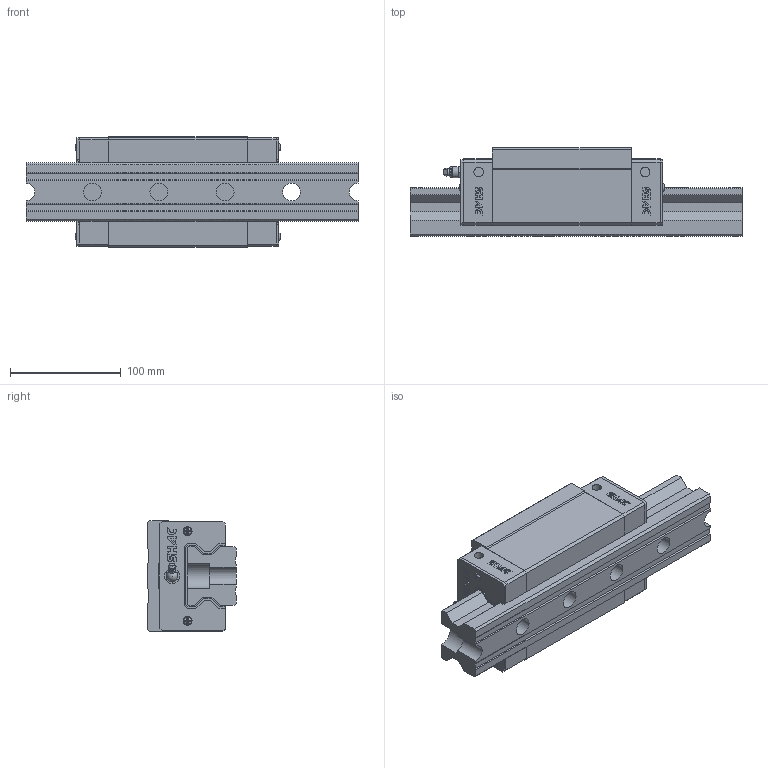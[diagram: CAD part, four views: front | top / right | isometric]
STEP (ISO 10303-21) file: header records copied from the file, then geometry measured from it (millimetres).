
FILE_DESCRIPTION( ( 'STEP AP214' ), '1' );
FILE_NAME( 'F:/品牌/SHAC 台湾鼎翰传动科技有限公司/3D滑块/GRH55CA1R300Z0CRC-0_0_1_1__.stp', '2025-04-21T22:53:22', ( 'License CC BY-ND 4.0' ), ( 'CADENAS' ), ' ', 'PARTsolutions', ' ' );
FILE_SCHEMA( ( 'AUTOMOTIVE_DESIGN { 1 0 10303 214 1 1 1 1 }' ) );
Length unit declared in the file: millimetre
Products named in the file (8): GRH55CA1R300Z0CRC-0/0(1_1_); _GR55R300-0/0(1)_RAIL; _GRH55CA_slider; _GRH55_C; _GRH55_P; _GH55_BOLT; _GR55_SCREW; _GH55-_G
Assembly tree (12 placements, depth 2):
  GRH55CA1R300Z0CRC-0/0(1_1_)
    _GR55R300-0/0(1)_RAIL
    _GRH55CA_slider
    _GRH55_C  x2
    _GRH55_P  x2
    _GH55_BOLT
    _GR55_SCREW  x4
    _GH55-_G
Bounding box: 300 x 80 x 100 mm (x, y, z)
Volume: 1456450.1 mm3; surface area: 202579.8 mm2
Topology: 12 solids, 12 shells, 759 faces, 2008 edges, 1325 vertices
Faces by surface type: plane 641, cylinder 87, cone 24, bspline 5, torus 1, sphere 1
Full cylindrical faces by diameter (mm): 4.3 x4, 4.5 x1, 7 x4, 8 x4, 8.5 x4, 8.8 x2, 10 x4, 10.106 x6, 10.5 x2, 14 x2, 16 x4, 23 x4
Entity records: 17798 total; most frequent: CARTESIAN_POINT 2708, ORIENTED_EDGE 2310, DIRECTION 2212, EDGE_CURVE 1155, LINE 960, VECTOR 960, VERTEX_POINT 786, AXIS2_PLACEMENT_3D 626
